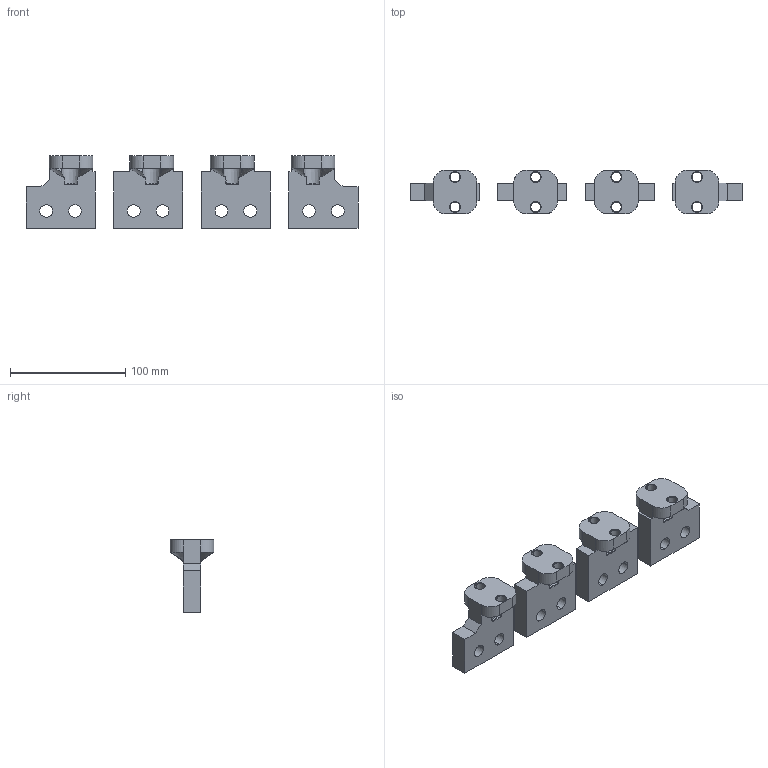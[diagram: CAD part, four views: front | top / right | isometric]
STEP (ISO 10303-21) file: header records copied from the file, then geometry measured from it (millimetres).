
FILE_DESCRIPTION (( 'STEP AP203' ), '1' );
FILE_NAME ('Âûâîäû ãîðèç. íèæíèå äëÿ ñòàöèîíàðíîãî íà 1250-1600À 4P.STEP', '2024-06-25T08:34:46', ( '' ), ( '' ), 'SwSTEP 2.0', 'SolidWorks 2018', '' );
FILE_SCHEMA (( 'CONFIG_CONTROL_DESIGN' ));
Length unit declared in the file: millimetre
Products named in the file (1): Âûâîäû ãîðèç. íèæíèå äëÿ ñòàöèîíàðíîãî íà 1250-1600À 4P
Bounding box: 288 x 38 x 63 mm (x, y, z)
Volume: 219968.9 mm3; surface area: 53237.3 mm2
Topology: 4 solids, 4 shells, 258 faces, 662 edges, 412 vertices
Faces by surface type: bspline 84, plane 82, cylinder 56, cone 24, torus 12
Entity records: 22093 total; most frequent: CARTESIAN_POINT 16365, ORIENTED_EDGE 1324, DIRECTION 952, EDGE_CURVE 662, VERTEX_POINT 412, AXIS2_PLACEMENT_3D 355, EDGE_LOOP 290, FACE_OUTER_BOUND 258
